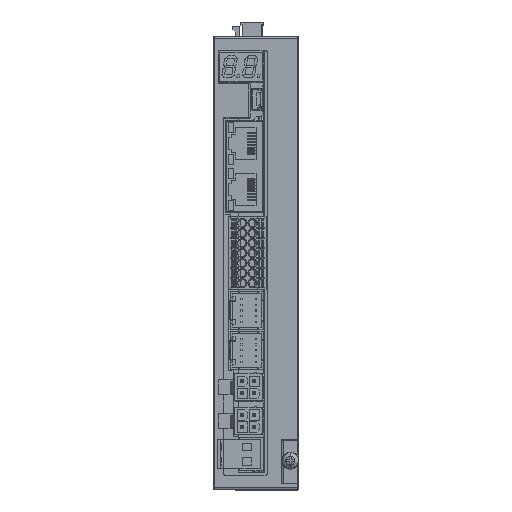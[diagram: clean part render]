
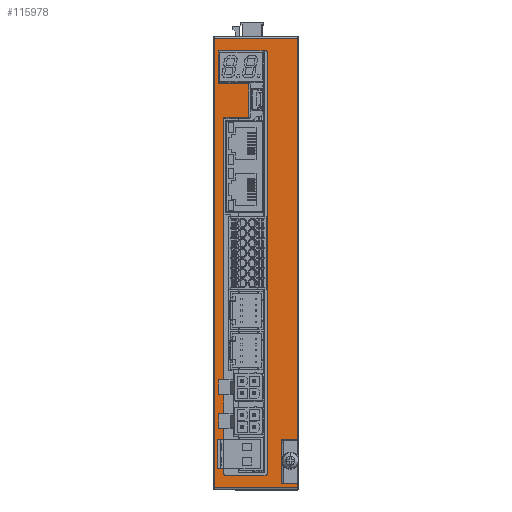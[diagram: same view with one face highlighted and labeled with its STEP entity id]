
A CAD part, top view. The second image highlights one B-rep face of the part: STEP entity #115978.
In plain terms, the highlighted planar face has unit normal (0, 0, 1).
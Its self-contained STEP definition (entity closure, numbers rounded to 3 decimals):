
#4778=DIRECTION('',(0.,1.,0.));
#4779=VECTOR('',#4778,11.5);
#4780=CARTESIAN_POINT('',(-28.,62.5,116.5));
#4781=LINE('',#4780,#4779);
#16245=DIRECTION('',(1.,0.,0.));
#16246=VECTOR('',#16245,2.4);
#16247=CARTESIAN_POINT('',(-28.6,-71.8,116.5));
#16248=LINE('',#16247,#16246);
#16281=DIRECTION('',(0.,-1.,0.));
#16282=VECTOR('',#16281,1.4);
#16283=CARTESIAN_POINT('',(-0.5,-77.1,116.5));
#16284=LINE('',#16283,#16282);
#16285=DIRECTION('',(-1.,0.,0.));
#16286=VECTOR('',#16285,29.);
#16287=CARTESIAN_POINT('',(-0.5,-78.5,116.5));
#16288=LINE('',#16287,#16286);
#16289=DIRECTION('',(0.,1.,0.));
#16290=VECTOR('',#16289,157.);
#16291=CARTESIAN_POINT('',(-29.5,-78.5,116.5));
#16292=LINE('',#16291,#16290);
#16293=DIRECTION('',(-1.,0.,0.));
#16294=VECTOR('',#16293,29.);
#16295=CARTESIAN_POINT('',(-0.5,78.5,116.5));
#16296=LINE('',#16295,#16294);
#16297=DIRECTION('',(0.,-1.,0.));
#16298=VECTOR('',#16297,140.1);
#16299=CARTESIAN_POINT('',(-0.5,78.5,116.5));
#16300=LINE('',#16299,#16298);
#16301=DIRECTION('',(1.,0.,0.));
#16302=VECTOR('',#16301,5.7);
#16303=CARTESIAN_POINT('',(-6.2,-61.6,116.5));
#16304=LINE('',#16303,#16302);
#16305=DIRECTION('',(1.,0.,0.));
#16306=VECTOR('',#16305,0.242);
#16307=CARTESIAN_POINT('',(-6.2,-77.1,116.5));
#16308=LINE('',#16307,#16306);
#16309=DIRECTION('',(0.,-1.,0.));
#16310=VECTOR('',#16309,1.7);
#16311=CARTESIAN_POINT('',(-26.2,-71.8,116.5));
#16312=LINE('',#16311,#16310);
#16313=DIRECTION('',(1.,0.,0.));
#16314=VECTOR('',#16313,14.2);
#16315=CARTESIAN_POINT('',(-25.7,-74.,116.5));
#16316=LINE('',#16315,#16314);
#16317=DIRECTION('',(0.,1.,0.));
#16318=VECTOR('',#16317,147.);
#16319=CARTESIAN_POINT('',(-11.,-73.5,116.5));
#16320=LINE('',#16319,#16318);
#16321=DIRECTION('',(1.,0.,0.));
#16322=VECTOR('',#16321,10.5);
#16323=CARTESIAN_POINT('',(-28.,62.5,116.5));
#16324=LINE('',#16323,#16322);
#16325=DIRECTION('',(0.,-1.,0.));
#16326=VECTOR('',#16325,11.74);
#16327=CARTESIAN_POINT('',(-17.5,62.5,116.5));
#16328=LINE('',#16327,#16326);
#16329=DIRECTION('',(-1.,0.,0.));
#16330=VECTOR('',#16329,8.7);
#16331=CARTESIAN_POINT('',(-17.5,50.76,116.5));
#16332=LINE('',#16331,#16330);
#16333=DIRECTION('',(-1.,0.,0.));
#16334=VECTOR('',#16333,1.8);
#16335=CARTESIAN_POINT('',(-26.2,-40.74,116.5));
#16336=LINE('',#16335,#16334);
#16337=DIRECTION('',(0.,-1.,0.));
#16338=VECTOR('',#16337,5.2);
#16339=CARTESIAN_POINT('',(-28.,-40.74,116.5));
#16340=LINE('',#16339,#16338);
#16341=DIRECTION('',(1.,0.,0.));
#16342=VECTOR('',#16341,1.8);
#16343=CARTESIAN_POINT('',(-28.,-45.94,116.5));
#16344=LINE('',#16343,#16342);
#16345=DIRECTION('',(0.,-1.,0.));
#16346=VECTOR('',#16345,6.6);
#16347=CARTESIAN_POINT('',(-26.2,-45.94,116.5));
#16348=LINE('',#16347,#16346);
#16349=DIRECTION('',(-1.,0.,0.));
#16350=VECTOR('',#16349,1.8);
#16351=CARTESIAN_POINT('',(-26.2,-52.54,116.5));
#16352=LINE('',#16351,#16350);
#16353=DIRECTION('',(0.,-1.,0.));
#16354=VECTOR('',#16353,5.2);
#16355=CARTESIAN_POINT('',(-28.,-52.54,116.5));
#16356=LINE('',#16355,#16354);
#16357=DIRECTION('',(1.,0.,0.));
#16358=VECTOR('',#16357,1.8);
#16359=CARTESIAN_POINT('',(-28.,-57.74,116.5));
#16360=LINE('',#16359,#16358);
#16361=DIRECTION('',(0.,-1.,0.));
#16362=VECTOR('',#16361,3.9);
#16363=CARTESIAN_POINT('',(-26.2,-57.74,116.5));
#16364=LINE('',#16363,#16362);
#16365=DIRECTION('',(1.,0.,0.));
#16366=VECTOR('',#16365,5.458);
#16367=CARTESIAN_POINT('',(-5.958,-77.1,116.5));
#16368=LINE('',#16367,#16366);
#20483=DIRECTION('',(0.,1.,0.));
#20484=VECTOR('',#20483,15.5);
#20485=CARTESIAN_POINT('',(-6.2,-77.1,116.5));
#20486=LINE('',#20485,#20484);
#55508=DIRECTION('',(0.,1.,0.));
#55509=VECTOR('',#55508,91.5);
#55510=CARTESIAN_POINT('',(-26.2,-40.74,116.5));
#55511=LINE('',#55510,#55509);
#55584=CARTESIAN_POINT('',(-25.7,-73.5,116.5));
#55585=DIRECTION('',(0.,0.,-1.));
#55586=DIRECTION('',(0.,-1.,0.));
#55587=AXIS2_PLACEMENT_3D('',#55584,#55585,#55586);
#55597=CARTESIAN_POINT('',(-11.5,-73.5,116.5));
#55598=DIRECTION('',(0.,0.,-1.));
#55599=DIRECTION('',(1.,0.,0.));
#55600=AXIS2_PLACEMENT_3D('',#55597,#55598,#55599);
#55610=CARTESIAN_POINT('',(-11.5,73.5,116.5));
#55611=DIRECTION('',(0.,0.,-1.));
#55612=DIRECTION('',(0.,1.,0.));
#55613=AXIS2_PLACEMENT_3D('',#55610,#55611,#55612);
#55623=DIRECTION('',(1.,0.,0.));
#55624=VECTOR('',#55623,16.5);
#55625=CARTESIAN_POINT('',(-28.,74.,116.5));
#55626=LINE('',#55625,#55624);
#55627=DIRECTION('',(-1.,0.,0.));
#55628=VECTOR('',#55627,2.4);
#55629=CARTESIAN_POINT('',(-26.2,-61.64,116.5));
#55630=LINE('',#55629,#55628);
#55895=DIRECTION('',(0.,-1.,0.));
#55896=VECTOR('',#55895,10.16);
#55897=CARTESIAN_POINT('',(-28.6,-61.64,116.5));
#55898=LINE('',#55897,#55896);
#82420=CARTESIAN_POINT('',(-28.,-40.74,116.5));
#82421=CARTESIAN_POINT('',(-28.,-45.94,116.5));
#82422=VERTEX_POINT('',#82420);
#82423=VERTEX_POINT('',#82421);
#82424=CARTESIAN_POINT('',(-28.,-52.54,116.5));
#82425=CARTESIAN_POINT('',(-28.,-57.74,116.5));
#82426=VERTEX_POINT('',#82424);
#82427=VERTEX_POINT('',#82425);
#82516=CARTESIAN_POINT('',(-29.5,-78.5,116.5));
#82517=CARTESIAN_POINT('',(-29.5,78.5,116.5));
#82518=VERTEX_POINT('',#82516);
#82519=VERTEX_POINT('',#82517);
#82808=CARTESIAN_POINT('',(-28.,74.,116.5));
#82809=VERTEX_POINT('',#82808);
#83161=CARTESIAN_POINT('',(-28.,62.5,116.5));
#83162=CARTESIAN_POINT('',(-17.5,62.5,116.5));
#83163=VERTEX_POINT('',#83161);
#83164=VERTEX_POINT('',#83162);
#83165=CARTESIAN_POINT('',(-17.5,50.76,116.5));
#83166=VERTEX_POINT('',#83165);
#83167=CARTESIAN_POINT('',(-26.2,50.76,116.5));
#83168=VERTEX_POINT('',#83167);
#83169=CARTESIAN_POINT('',(-26.2,-45.94,116.5));
#83170=CARTESIAN_POINT('',(-26.2,-52.54,116.5));
#83171=VERTEX_POINT('',#83169);
#83172=VERTEX_POINT('',#83170);
#83189=CARTESIAN_POINT('',(-26.2,-40.74,116.5));
#83190=VERTEX_POINT('',#83189);
#83203=CARTESIAN_POINT('',(-26.2,-57.74,116.5));
#83204=VERTEX_POINT('',#83203);
#83221=CARTESIAN_POINT('',(-11.,-73.5,116.5));
#83222=VERTEX_POINT('',#83221);
#83223=CARTESIAN_POINT('',(-11.5,-74.,116.5));
#83224=VERTEX_POINT('',#83223);
#83229=CARTESIAN_POINT('',(-11.5,74.,116.5));
#83230=VERTEX_POINT('',#83229);
#83231=CARTESIAN_POINT('',(-11.,73.5,116.5));
#83232=VERTEX_POINT('',#83231);
#83235=CARTESIAN_POINT('',(-25.7,-74.,116.5));
#83236=VERTEX_POINT('',#83235);
#83255=CARTESIAN_POINT('',(-26.2,-73.5,116.5));
#83256=VERTEX_POINT('',#83255);
#83961=CARTESIAN_POINT('',(-0.5,-78.5,116.5));
#83962=VERTEX_POINT('',#83961);
#83964=CARTESIAN_POINT('',(-0.5,-61.6,116.5));
#83966=VERTEX_POINT('',#83964);
#83967=CARTESIAN_POINT('',(-0.5,78.5,116.5));
#83968=VERTEX_POINT('',#83967);
#84245=CARTESIAN_POINT('',(-6.2,-61.6,116.5));
#84246=VERTEX_POINT('',#84245);
#84298=CARTESIAN_POINT('',(-6.2,-77.1,116.5));
#84299=VERTEX_POINT('',#84298);
#84840=CARTESIAN_POINT('',(-5.958,-77.1,116.5));
#84841=VERTEX_POINT('',#84840);
#84852=CARTESIAN_POINT('',(-0.5,-77.1,116.5));
#84853=VERTEX_POINT('',#84852);
#84912=CARTESIAN_POINT('',(-28.6,-71.8,116.5));
#84913=CARTESIAN_POINT('',(-26.2,-71.8,116.5));
#84914=VERTEX_POINT('',#84912);
#84915=VERTEX_POINT('',#84913);
#84920=CARTESIAN_POINT('',(-26.2,-61.64,116.5));
#84921=CARTESIAN_POINT('',(-28.6,-61.64,116.5));
#84922=VERTEX_POINT('',#84920);
#84923=VERTEX_POINT('',#84921);
#115911=CARTESIAN_POINT('',(0.,79.,116.5));
#115912=DIRECTION('',(0.,0.,1.));
#115913=DIRECTION('',(0.,-1.,0.));
#115914=AXIS2_PLACEMENT_3D('',#115911,#115912,#115913);
#115915=PLANE('',#115914);
#115917=ORIENTED_EDGE('',*,*,#115916,.T.);
#115919=ORIENTED_EDGE('',*,*,#115918,.T.);
#115921=ORIENTED_EDGE('',*,*,#115920,.T.);
#115923=ORIENTED_EDGE('',*,*,#115922,.T.);
#115925=ORIENTED_EDGE('',*,*,#115924,.F.);
#115927=ORIENTED_EDGE('',*,*,#115926,.T.);
#115929=ORIENTED_EDGE('',*,*,#115928,.F.);
#115931=ORIENTED_EDGE('',*,*,#115930,.F.);
#115933=ORIENTED_EDGE('',*,*,#115932,.T.);
#115934=EDGE_LOOP('',(#115917,#115919,#115921,#115923,#115925,#115927,#115929,
#115931,#115933));
#115935=FACE_OUTER_BOUND('',#115934,.F.);
#115936=ORIENTED_EDGE('',*,*,#115876,.T.);
#115938=ORIENTED_EDGE('',*,*,#115937,.T.);
#115940=ORIENTED_EDGE('',*,*,#115939,.F.);
#115942=ORIENTED_EDGE('',*,*,#115941,.T.);
#115944=ORIENTED_EDGE('',*,*,#115943,.F.);
#115946=ORIENTED_EDGE('',*,*,#115945,.T.);
#115948=ORIENTED_EDGE('',*,*,#115947,.F.);
#115950=ORIENTED_EDGE('',*,*,#115949,.F.);
#115951=ORIENTED_EDGE('',*,*,#93547,.F.);
#115953=ORIENTED_EDGE('',*,*,#115952,.T.);
#115955=ORIENTED_EDGE('',*,*,#115954,.T.);
#115957=ORIENTED_EDGE('',*,*,#115956,.T.);
#115959=ORIENTED_EDGE('',*,*,#115958,.F.);
#115961=ORIENTED_EDGE('',*,*,#115960,.T.);
#115962=ORIENTED_EDGE('',*,*,#93392,.T.);
#115963=ORIENTED_EDGE('',*,*,#93347,.T.);
#115965=ORIENTED_EDGE('',*,*,#115964,.T.);
#115966=ORIENTED_EDGE('',*,*,#93575,.T.);
#115967=ORIENTED_EDGE('',*,*,#93370,.T.);
#115969=ORIENTED_EDGE('',*,*,#115968,.T.);
#115971=ORIENTED_EDGE('',*,*,#115970,.T.);
#115973=ORIENTED_EDGE('',*,*,#115972,.T.);
#115975=ORIENTED_EDGE('',*,*,#115974,.T.);
#115976=EDGE_LOOP('',(#115936,#115938,#115940,#115942,#115944,#115946,#115948,
#115950,#115951,#115953,#115955,#115957,#115959,#115961,#115962,#115963,#115965,
#115966,#115967,#115969,#115971,#115973,#115975));
#115977=FACE_BOUND('',#115976,.F.);
#115978=ADVANCED_FACE('',(#115935,#115977),#115915,.T.);
#55588=CIRCLE('',#55587,0.5);
#55601=CIRCLE('',#55600,0.5);
#55614=CIRCLE('',#55613,0.5);
#93347=EDGE_CURVE('',#82423,#83171,#16344,.T.);
#93370=EDGE_CURVE('',#82426,#82427,#16356,.T.);
#93392=EDGE_CURVE('',#82422,#82423,#16340,.T.);
#93547=EDGE_CURVE('',#83163,#82809,#4781,.T.);
#93575=EDGE_CURVE('',#83172,#82426,#16352,.T.);
#115876=EDGE_CURVE('',#84914,#84915,#16248,.T.);
#115916=EDGE_CURVE('',#84841,#84853,#16368,.T.);
#115918=EDGE_CURVE('',#84853,#83962,#16284,.T.);
#115920=EDGE_CURVE('',#83962,#82518,#16288,.T.);
#115922=EDGE_CURVE('',#82518,#82519,#16292,.T.);
#115924=EDGE_CURVE('',#83968,#82519,#16296,.T.);
#115926=EDGE_CURVE('',#83968,#83966,#16300,.T.);
#115928=EDGE_CURVE('',#84246,#83966,#16304,.T.);
#115930=EDGE_CURVE('',#84299,#84246,#20486,.T.);
#115932=EDGE_CURVE('',#84299,#84841,#16308,.T.);
#115937=EDGE_CURVE('',#84915,#83256,#16312,.T.);
#115939=EDGE_CURVE('',#83236,#83256,#55588,.T.);
#115941=EDGE_CURVE('',#83236,#83224,#16316,.T.);
#115943=EDGE_CURVE('',#83222,#83224,#55601,.T.);
#115945=EDGE_CURVE('',#83222,#83232,#16320,.T.);
#115947=EDGE_CURVE('',#83230,#83232,#55614,.T.);
#115949=EDGE_CURVE('',#82809,#83230,#55626,.T.);
#115952=EDGE_CURVE('',#83163,#83164,#16324,.T.);
#115954=EDGE_CURVE('',#83164,#83166,#16328,.T.);
#115956=EDGE_CURVE('',#83166,#83168,#16332,.T.);
#115958=EDGE_CURVE('',#83190,#83168,#55511,.T.);
#115960=EDGE_CURVE('',#83190,#82422,#16336,.T.);
#115964=EDGE_CURVE('',#83171,#83172,#16348,.T.);
#115968=EDGE_CURVE('',#82427,#83204,#16360,.T.);
#115970=EDGE_CURVE('',#83204,#84922,#16364,.T.);
#115972=EDGE_CURVE('',#84922,#84923,#55630,.T.);
#115974=EDGE_CURVE('',#84923,#84914,#55898,.T.);
